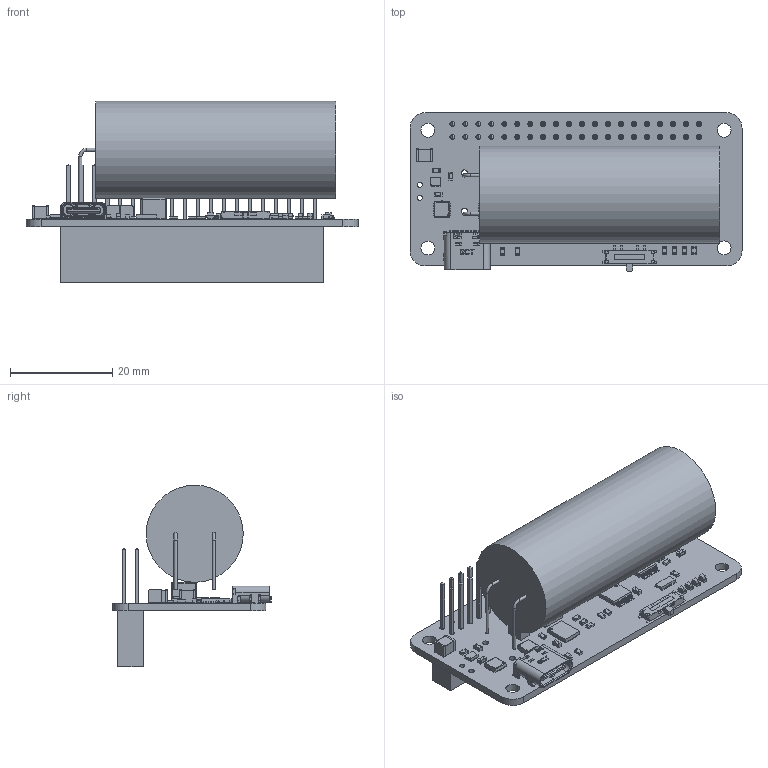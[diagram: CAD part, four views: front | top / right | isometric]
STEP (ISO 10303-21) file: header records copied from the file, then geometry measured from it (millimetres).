
FILE_DESCRIPTION(('KiCad electronic assembly'),'2;1');
FILE_NAME('qUPS-BAT-850.step','2026-05-07T14:08:27',('Pcbnew'),('Kicad') ,'Open CASCADE STEP processor 7.6','KiCad to STEP converter','Unknown' );
FILE_SCHEMA(('AUTOMOTIVE_DESIGN { 1 0 10303 214 1 1 1 1 }'));
Length unit declared in the file: millimetre
Products named in the file (37): qUPS-BAT-850 1; R_0603_1608Metric; C_0603_1608Metric; C_1210_3225Metric; L_APV_ANR5040; TC33X-2-103E-withcolor; LED_0603_1608Metric; SOT-23; DMN1004UFV-7; AP22800HB-7; Body; ThermalPin; PinsArrayLR; RN8-EXB-2HV; Pins; TSSOP-14_4.4x5mm_P0.65mm; supercap850; Cut; Cut001; SimpleBody; R_Cat16-4; PCM13SMTR-withcolor; PCM13SMTR_PART1; PCM13SMTR_PART2; USB4105-withcolor; HSG_ÃÂ¬ÃÃ; Shell_0.95; LTC4041EUFD#PBF; PinsArrayTB; SPH-2x20P; LeadsArray; qUPS-PZ-HC_PCB
Assembly tree (67 placements, depth 3):
  qUPS-BAT-850 1
    R_0603_1608Metric  x16
    C_0603_1608Metric  x8
    C_1210_3225Metric  x3
    L_APV_ANR5040
    TC33X-2-103E-withcolor
    LED_0603_1608Metric  x5
    SOT-23  x2
    DMN1004UFV-7  x2
    AP22800HB-7
      Body
      ThermalPin
      PinsArrayLR
    RN8-EXB-2HV
      Body
      Pins
    TSSOP-14_4.4x5mm_P0.65mm  x2
    supercap850
      Cut
      Cut001
      SimpleBody
    R_Cat16-4
    PCM13SMTR-withcolor
      PCM13SMTR_PART1
      PCM13SMTR_PART2
    USB4105-withcolor
      HSG_ÃÂ¬ÃÃ
      Shell_0.95
    LTC4041EUFD#PBF
      Body
      ThermalPin
      PinsArrayLR
      PinsArrayTB
    SPH-2x20P
      Body
      LeadsArray
    qUPS-PZ-HC_PCB
Bounding box: 65 x 31.05 x 35.53 mm (x, y, z)
Volume: 19499.6 mm3; surface area: 13474.4 mm2
Topology: 154 solids, 154 shells, 4185 faces, 10624 edges, 6803 vertices
Faces by surface type: plane 3266, cylinder 792, bspline 73, cone 48, sphere 4, torus 2
Full cylindrical faces by diameter (mm): 0.202 x1, 0.4 x6, 0.5 x1, 0.6 x6, 0.9 x2, 1 x42, 1.2 x2, 2.7 x4, 19 x1
Entity records: 87496 total; most frequent: CARTESIAN_POINT 17508, ORIENTED_EDGE 14584, DIRECTION 13497, EDGE_CURVE 7292, LINE 6061, VECTOR 6061, VERTEX_POINT 4655, AXIS2_PLACEMENT_3D 3718
